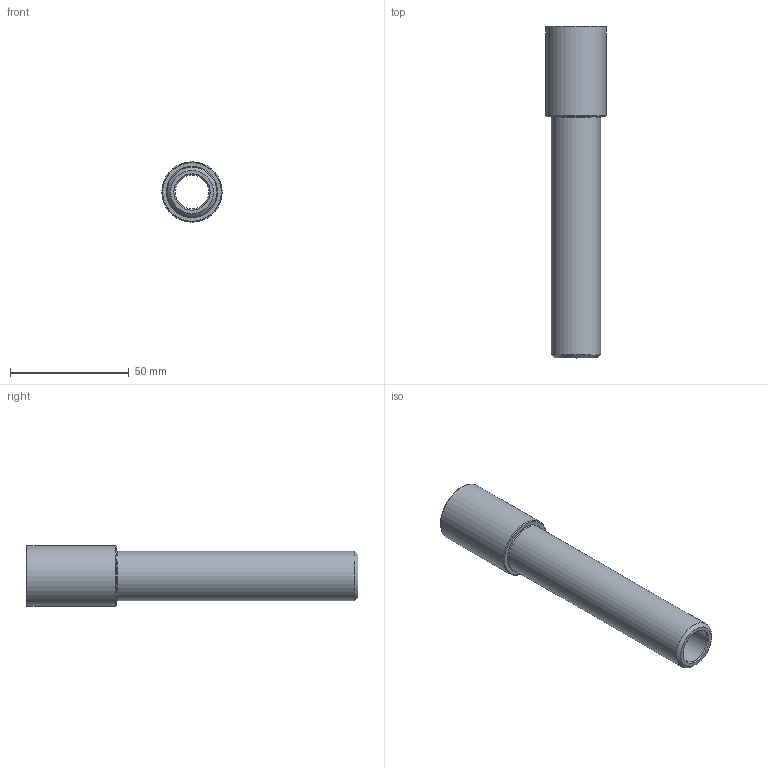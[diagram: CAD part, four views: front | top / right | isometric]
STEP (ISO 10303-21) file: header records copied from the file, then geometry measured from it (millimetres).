
FILE_DESCRIPTION(/* description */ (''),/* implementation_level */ '2;1');
FILE_NAME(/* name */ 'C:/Users/drich/Desktop/EP12X5-1_2 v1.step',/* time_stamp */ '2019-11-18T14:46:20-06:00',/* author */ (''),/* organization */ (''),/* preprocessor_version */ 'ST-DEVELOPER v18',/* originating_system */ 'Autodesk Translation Framework v8.12.0.6',/* authorisation */ '');
FILE_SCHEMA (('AUTOMOTIVE_DESIGN { 1 0 10303 214 3 1 1 }'));
Length unit declared in the file: inch
Products named in the file (2): EP12X5-1_2; EP12X4
Assembly tree (1 placements, depth 2):
  EP12X5-1_2
    EP12X4
Bounding box: 25.4 x 139.7 x 25.4 mm (x, y, z)
Volume: 28732.5 mm3; surface area: 16914.4 mm2
Topology: 1 solids, 1 shells, 23 faces, 55 edges, 37 vertices
Faces by surface type: plane 11, cone 7, cylinder 5
Full cylindrical faces by diameter (mm): 14.275 x1, 17.145 x1, 18.901 x1, 20.813 x1, 25.4 x1
Entity records: 740 total; most frequent: CARTESIAN_POINT 132, DIRECTION 124, ORIENTED_EDGE 110, EDGE_CURVE 55, AXIS2_PLACEMENT_3D 50, VERTEX_POINT 37, EDGE_LOOP 28, LINE 24
